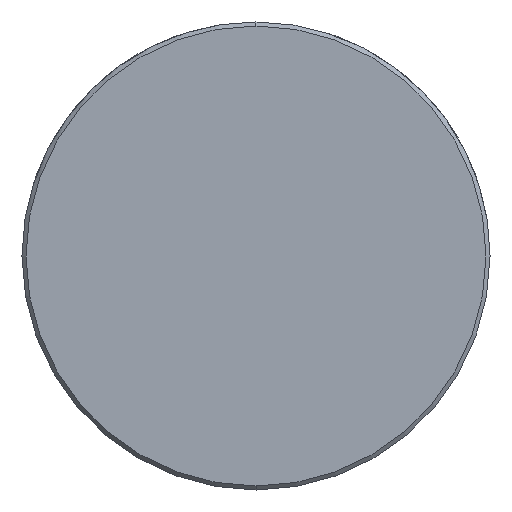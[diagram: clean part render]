
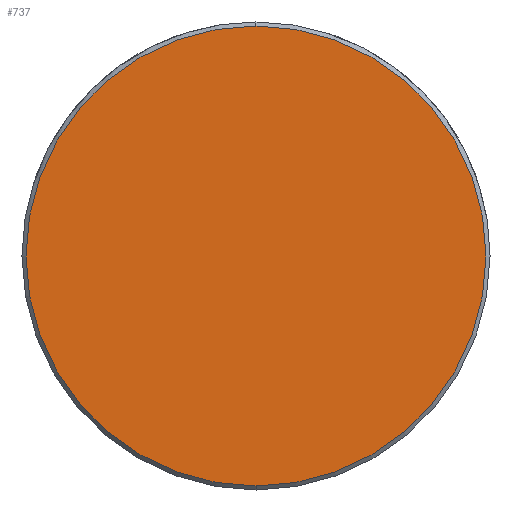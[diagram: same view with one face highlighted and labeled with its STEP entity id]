
A CAD part, left-side view. The second image highlights one B-rep face of the part: STEP entity #737.
In plain terms, the highlighted planar face has unit normal (-1, 0, 0).
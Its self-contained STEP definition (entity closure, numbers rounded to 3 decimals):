
#669=CARTESIAN_POINT('Vertex',(0.,0.,-17.2)) ;
#672=CARTESIAN_POINT('Axis2P3D Location',(0.,0.,0.)) ;
#676=CARTESIAN_POINT('Vertex',(0.,17.2,0.)) ;
#679=CARTESIAN_POINT('Axis2P3D Location',(0.,0.,0.)) ;
#683=CARTESIAN_POINT('Vertex',(0.,0.,17.2)) ;
#705=CARTESIAN_POINT('Axis2P3D Location',(0.,0.,0.)) ;
#709=CARTESIAN_POINT('Vertex',(0.,-17.2,0.)) ;
#712=CARTESIAN_POINT('Axis2P3D Location',(0.,0.,0.)) ;
#726=CARTESIAN_POINT('Axis2P3D Location',(0.,0.,0.)) ;
#673=DIRECTION('Axis2P3D Direction',(1.,0.,-0.)) ;
#680=DIRECTION('Axis2P3D Direction',(1.,0.,-0.)) ;
#706=DIRECTION('Axis2P3D Direction',(1.,0.,-0.)) ;
#713=DIRECTION('Axis2P3D Direction',(1.,0.,-0.)) ;
#727=DIRECTION('Axis2P3D Direction',(1.,0.,-0.)) ;
#728=DIRECTION('Axis2P3D XDirection',(-0.,0.,-1.)) ;
#674=AXIS2_PLACEMENT_3D('Circle Axis2P3D',#672,#673,$) ;
#681=AXIS2_PLACEMENT_3D('Circle Axis2P3D',#679,#680,$) ;
#707=AXIS2_PLACEMENT_3D('Circle Axis2P3D',#705,#706,$) ;
#714=AXIS2_PLACEMENT_3D('Circle Axis2P3D',#712,#713,$) ;
#729=AXIS2_PLACEMENT_3D('Plane Axis2P3D',#726,#727,#728) ;
#732=ORIENTED_EDGE('',*,*,#678,.F.) ;
#733=ORIENTED_EDGE('',*,*,#716,.F.) ;
#734=ORIENTED_EDGE('',*,*,#711,.F.) ;
#735=ORIENTED_EDGE('',*,*,#685,.F.) ;
#737=ADVANCED_FACE('549-30X200',(#736),#730,.F.) ;
#675=CIRCLE('generated circle',#674,17.2) ;
#682=CIRCLE('generated circle',#681,17.2) ;
#708=CIRCLE('generated circle',#707,17.2) ;
#715=CIRCLE('generated circle',#714,17.2) ;
#678=EDGE_CURVE('',#670,#677,#675,.T.) ;
#685=EDGE_CURVE('',#677,#684,#682,.T.) ;
#711=EDGE_CURVE('',#684,#710,#708,.T.) ;
#716=EDGE_CURVE('',#710,#670,#715,.T.) ;
#731=EDGE_LOOP('',(#732,#733,#734,#735)) ;
#736=FACE_OUTER_BOUND('',#731,.T.) ;
#730=PLANE('Plane',#729) ;
#670=VERTEX_POINT('',#669) ;
#677=VERTEX_POINT('',#676) ;
#684=VERTEX_POINT('',#683) ;
#710=VERTEX_POINT('',#709) ;
